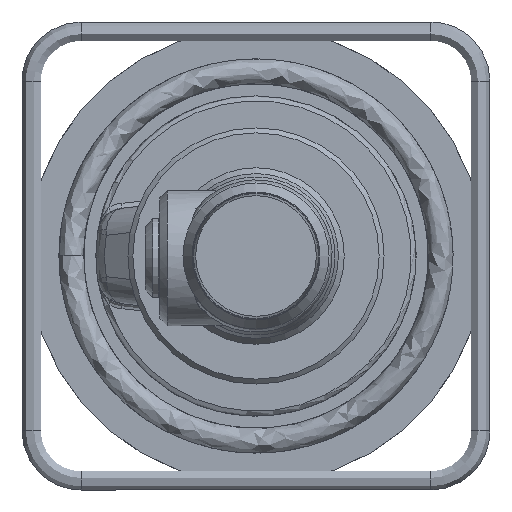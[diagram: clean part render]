
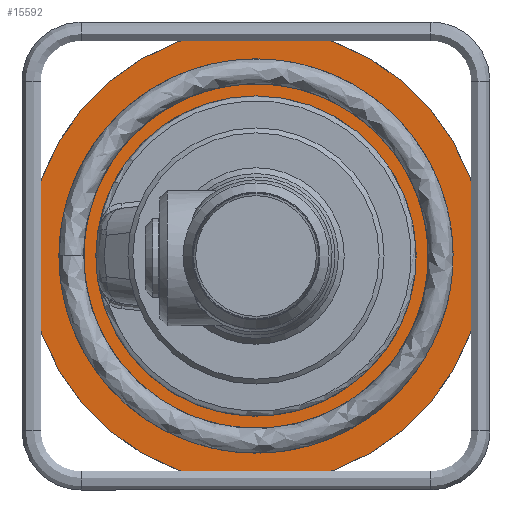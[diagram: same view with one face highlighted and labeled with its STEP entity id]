
A CAD part, left-side view. The second image highlights one B-rep face of the part: STEP entity #15592.
In plain terms, the highlighted planar face has unit normal (-1, 0, 0).
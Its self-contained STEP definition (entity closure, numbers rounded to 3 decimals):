
#1522=PLANE('',#16505);
#3607=FACE_BOUND('',#5430,.T.);
#4422=FACE_OUTER_BOUND('',#5429,.T.);
#5429=EDGE_LOOP('',(#13785));
#5430=EDGE_LOOP('',(#13786));
#6006=CIRCLE('',#16484,92.5);
#6007=CIRCLE('',#16506,65.);
#7504=VERTEX_POINT('',#32560);
#7505=VERTEX_POINT('',#32583);
#9644=EDGE_CURVE('',#7504,#7504,#6006,.T.);
#9645=EDGE_CURVE('',#7505,#7505,#6007,.T.);
#13785=ORIENTED_EDGE('',*,*,#9644,.F.);
#13786=ORIENTED_EDGE('',*,*,#9645,.T.);
#15592=ADVANCED_FACE('',(#4422,#3607),#1522,.T.);
#16484=AXIS2_PLACEMENT_3D('',#32561,#19124,#19125);
#16505=AXIS2_PLACEMENT_3D('',#32582,#19166,#19167);
#16506=AXIS2_PLACEMENT_3D('',#32584,#19168,#19169);
#19124=DIRECTION('center_axis',(1.,0.,0.));
#19125=DIRECTION('ref_axis',(0.,0.644,0.765));
#19166=DIRECTION('center_axis',(-1.,0.,0.));
#19167=DIRECTION('ref_axis',(0.,0.644,0.765));
#19168=DIRECTION('center_axis',(1.,0.,0.));
#19169=DIRECTION('ref_axis',(0.,0.,
1.));
#32560=CARTESIAN_POINT('',(0.,70.782,-59.55));
#32561=CARTESIAN_POINT('Origin',(0.,0.,0.));
#32582=CARTESIAN_POINT('Origin',(0.,70.782,
-59.55));
#32583=CARTESIAN_POINT('',(0.,0.,65.));
#32584=CARTESIAN_POINT('Origin',(0.,0.,
0.));
